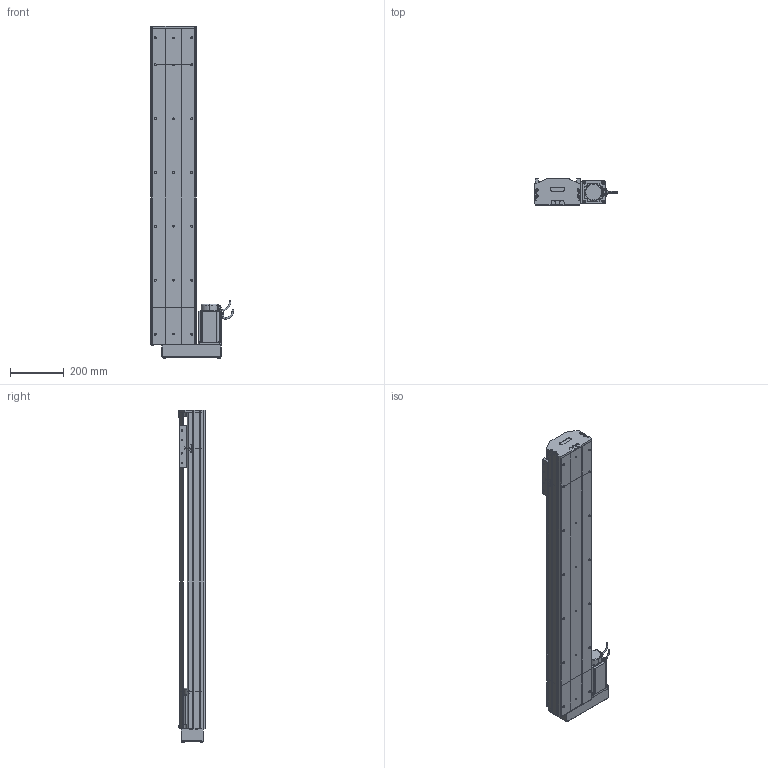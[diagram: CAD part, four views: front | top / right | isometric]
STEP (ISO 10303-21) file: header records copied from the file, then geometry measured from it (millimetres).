
FILE_DESCRIPTION (( 'STEP AP214' ), '1' );
FILE_NAME ('D17 TSH BL S900.STEP', '2010-06-30T06:48:03', ( 'Christophe Gaillard' ), ( 'SGA' ), 'SwSTEP 2.0', 'SolidWorks 2010', '' );
FILE_SCHEMA (( 'AUTOMOTIVE_DESIGN' ));
Length unit declared in the file: millimetre
Products named in the file (33): Arbre+rail tail D17; Conecteur_Default; Conecteur2_Default; codeur 90BLDC125-640; corps 90BLDC125A-640; avant 90BLDC125A-640; Vis M5 L16-2_Default; plaque de  bout BM head D17_Default; couvercle D17 head_Default; corpl head D17 BM_Default; Moteur motionking 90BLDC125A-640; vis M5 L5_Default; Arbre+rail head D17; head BL_Default; vis M5 L25_Default; vis M5 L8 90°_Default; couvercle D17_Default; vis M5 L12_Default; guide D17; Chariot D17; chariot D17S_Default; Cvis M5 L70_Default; renvoi BL_Default; D17 TSH BL S900; corp D17 900_Default; arbre + rail D17 Course 900 ; course 900 D17_Default; corpl tail D17+L100_Default; Tail D17+L100_Default; couvercle D17 course L900_Default; tete d''axe haut D17; tete d''axe bas D17; plaque de  bout tail D17_Default
Assembly tree (55 placements, depth 4):
  D17 TSH BL S900
    course 900 D17_Default
      couvercle D17 course L900_Default
      arbre + rail D17 Course 900 
      corp D17 900_Default
    chariot D17S_Default
      vis M5 L12_Default  x4
      guide D17  x2
      Chariot D17
    head BL_Default
      Vis M5 L16-2_Default  x4
      vis M5 L12_Default  x8
      renvoi BL_Default
      plaque de  bout BM head D17_Default
      vis M5 L5_Default  x2
      Arbre+rail head D17
      couvercle D17 head_Default
      Moteur motionking 90BLDC125A-640
        codeur 90BLDC125-640
        Conecteur_Default
        Conecteur2_Default
        avant 90BLDC125A-640
        corps 90BLDC125A-640
      Cvis M5 L70_Default  x2
      corpl head D17 BM_Default
    Tail D17+L100_Default
      vis M5 L25_Default  x2
      vis M5 L12_Default  x4
      corpl tail D17+L100_Default
      vis M5 L8 90°_Default  x2
      tete d''axe haut D17
      plaque de  bout tail D17_Default
      tete d''axe bas D17
      Arbre+rail tail D17
      couvercle D17_Default
Bounding box: 308.95 x 99.7 x 1232.7 mm (x, y, z)
Volume: 8243705.7 mm3; surface area: 2088803.3 mm2
Topology: 80 solids, 80 shells, 2265 faces, 5708 edges, 3682 vertices
Faces by surface type: plane 1400, cylinder 588, bspline 136, torus 73, cone 64, sphere 4
Entity records: 73322 total; most frequent: CARTESIAN_POINT 22827, ORIENTED_EDGE 8924, DIRECTION 8355, EDGE_CURVE 4462, VECTOR 3083, LINE 3083, VERTEX_POINT 2928, AXIS2_PLACEMENT_3D 2636
